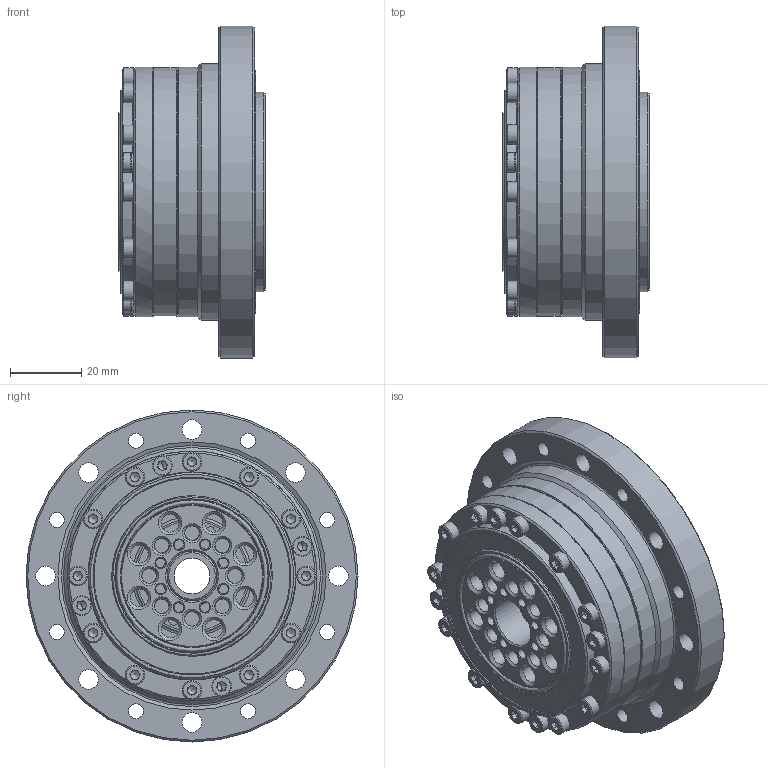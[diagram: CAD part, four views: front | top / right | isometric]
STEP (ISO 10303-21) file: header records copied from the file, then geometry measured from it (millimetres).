
FILE_DESCRIPTION(/* description */ (''),/* implementation_level */ '2;1');
FILE_NAME(/* name */ 'Getriebeset_CTG_Plus_BG51_HS.stp',/* time_stamp */ '2026-03-10T14:14:49+01:00',/* author */ (''),/* organization */ (''),/* preprocessor_version */ 'ST-DEVELOPER v19.4',/* originating_system */ 'SIEMENS PLM Software NX2212.9120',/* authorisation */ '');
FILE_SCHEMA (('AUTOMOTIVE_DESIGN { 1 0 10303 214 3 1 1 1 }'));
Length unit declared in the file: millimetre
Products named in the file (1): Getriebeset_CTG_Plus_BG51_HS
Bounding box: 41.3 x 93 x 93 mm (x, y, z)
Volume: 121655.7 mm3; surface area: 91679.1 mm2
Topology: 111 solids, 111 shells, 1418 faces, 3200 edges, 2008 vertices
Faces by surface type: plane 559, cylinder 336, cone 291, torus 195, sphere 35, bspline 2
Full cylindrical faces by diameter (mm): 2.5 x36, 2.6 x2, 2.8 x8, 3 x72, 3.6 x28, 4 x8, 4.2 x16, 5 x20, 5.5 x48, 8.5 x8, 10 x1, 14 x2, 16 x3, 24 x1, 32 x3, 34 x1, 35 x2, 38.5 x3, 39.8 x1, 43 x1, 43.5 x1, 45 x3, 46.3 x2, 49 x2, 49.5 x2, 49.9 x1, 50.5 x2, 51 x1, 51.2 x1, 53.3 x1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
Entity records: 38286 total; most frequent: CARTESIAN_POINT 9273, DIRECTION 6114, ORIENTED_EDGE 4408, AXIS2_PLACEMENT_3D 2711, EDGE_LOOP 2366, EDGE_CURVE 2204, FACE_BOUND 1817, VERTEX_POINT 1779
